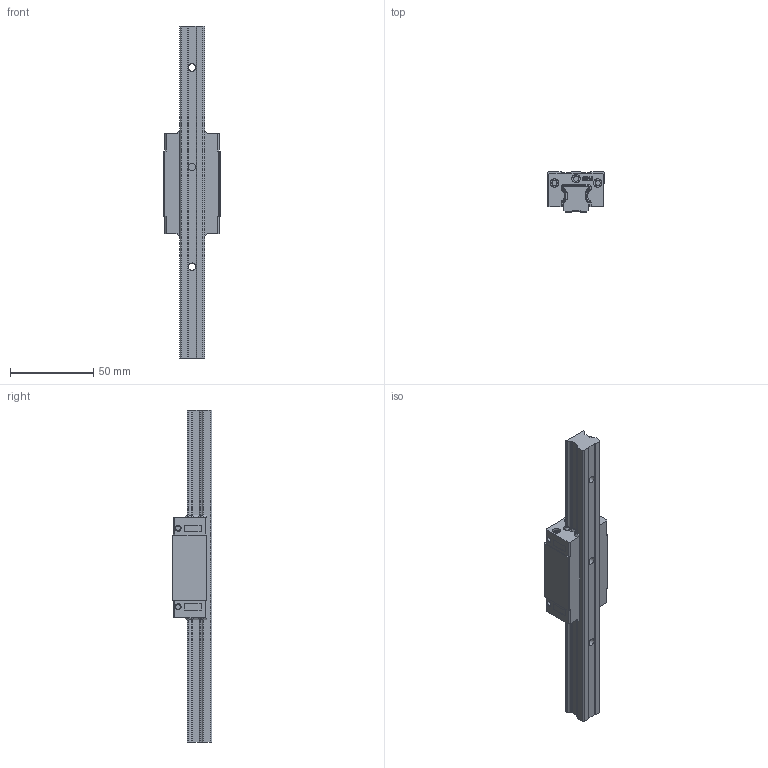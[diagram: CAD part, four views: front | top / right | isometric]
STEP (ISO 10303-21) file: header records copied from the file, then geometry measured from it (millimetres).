
FILE_DESCRIPTION(/* description */ (''),/* implementation_level */ '2;1');
FILE_NAME(/* name */ 'SGS15B.stp',/* time_stamp */ '2021-05-27T16:22:14+08:00',/* author */ (''),/* organization */ (''),/* preprocessor_version */ 'ST-DEVELOPER v15',/* originating_system */ 'SIEMENS PLM Software NX 8.5',/* authorisation */ '');
FILE_SCHEMA (('CONFIG_CONTROL_DESIGN'));
Length unit declared in the file: millimetre
Products named in the file (1): SGS15B
Bounding box: 34 x 24 x 200 mm (x, y, z)
Volume: 68863.4 mm3; surface area: 24258.5 mm2
Topology: 2 solids, 2 shells, 420 faces, 1142 edges, 765 vertices
Faces by surface type: plane 199, extrusion 94, cylinder 88, cone 39
Full cylindrical faces by diameter (mm): 3 x4, 3.1 x4, 3.2 x6, 3.3 x4, 4.5 x3, 5 x6, 7.5 x3
Entity records: 14336 total; most frequent: CARTESIAN_POINT 4221, ORIENTED_EDGE 2158, DIRECTION 1792, EDGE_CURVE 1079, VERTEX_POINT 743, VECTOR 664, LINE 570, AXIS2_PLACEMENT_3D 564
